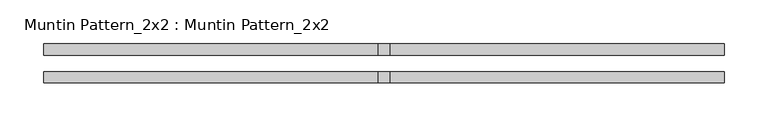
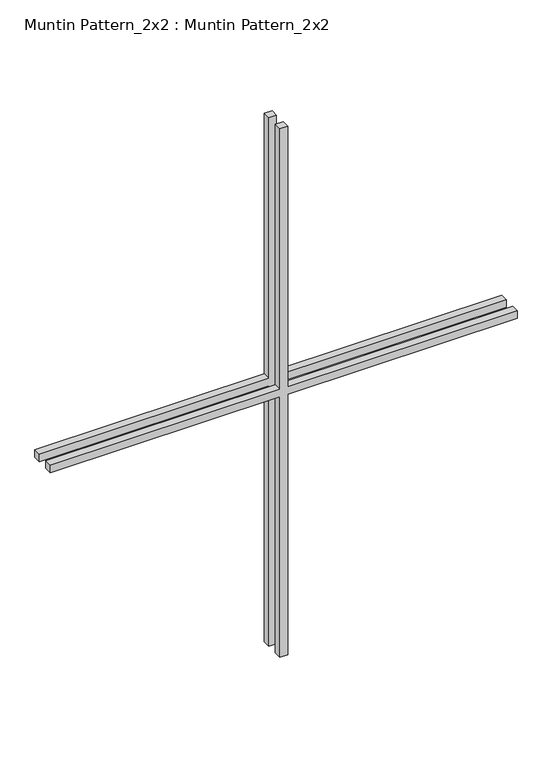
"""IFC4 building model written with IfcOpenShell, lengths in millimetres: proxy geometry, Muntin Pattern_2x2 : Muntin Pattern_2x2."""

from ifc_helpers import new_model, si_unit, frame, origin, place, context, project, spatial, polyline, outline, extrude, source, transform, mapped, element, save


def muntin_pattern_2x2_muntin_pattern_2x2_3e21365d(model_context):
    return source(origin(), model_context, "Body", "SweptSolid", [
        extrude(outline(polyline([(469.9, -6.35), (469.9, -387.35), (457.2, -387.35), (457.2, -6.35), (0.0, -6.35), (0.0, 6.35), (457.2, 6.35), (457.2, 387.35), (469.9, 387.35), (469.9, 6.35), (927.1, 6.35), (927.1, -6.35), (469.9, -6.35)])), frame((0.0, 9.525, 0.0), z_axis=(0.0, 1.0, 0.0), x_axis=(0.0, 0.0, 1.0)), (0.0, 0.0, 1.0), 12.7),
        extrude(outline(polyline([(469.9, -6.35), (469.9, -387.35), (457.2, -387.35), (457.2, -6.35), (0.0, -6.35), (0.0, 6.35), (457.2, 6.35), (457.2, 387.35), (469.9, 387.35), (469.9, 6.35), (927.1, 6.35), (927.1, -6.35), (469.9, -6.35)])), frame((0.0, -22.225, 0.0), z_axis=(0.0, 1.0, 0.0), x_axis=(0.0, 0.0, 1.0)), (0.0, 0.0, 1.0), 12.7),
    ])


if __name__ == "__main__":
    model = new_model("IFC4")
    model_context = context("Model", 3, world=origin())
    ifc_project = project(units=[si_unit("LENGTHUNIT", "METRE", prefix="MILLI")], contexts=[model_context])
    site = spatial("IfcSite", under=ifc_project)
    building = spatial("IfcBuilding", under=site)
    placement = place(None, origin())
    muntin_pattern_2x2_muntin_pattern_2x2_shape = muntin_pattern_2x2_muntin_pattern_2x2_3e21365d(model_context)
    element("IfcBuildingElementProxy", 1, Name="Muntin Pattern_2x2 : Muntin Pattern_2x2", ObjectType="Muntin Pattern_2x2 : Muntin Pattern_2x2", at=placement, inside=building, context=model_context, shape_type="MappedRepresentation", body=[
        mapped(muntin_pattern_2x2_muntin_pattern_2x2_shape, transform((0.0, 0.0, 0.0), x_axis=(1.0, 0.0, 0.0), y_axis=(0.0, 1.0, 0.0), z_axis=(0.0, 0.0, 1.0))),
    ])
    save(model, "model.ifc")
